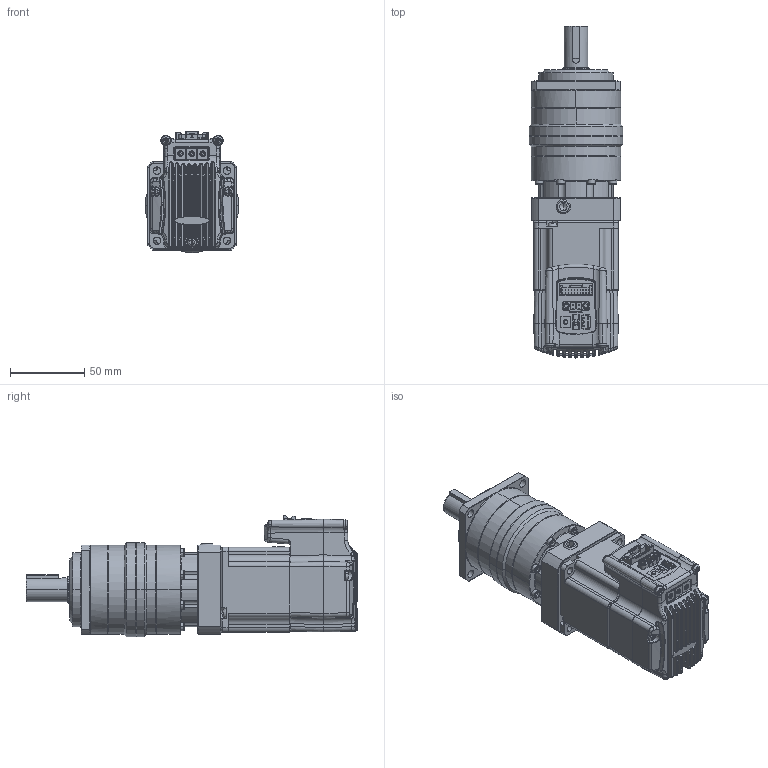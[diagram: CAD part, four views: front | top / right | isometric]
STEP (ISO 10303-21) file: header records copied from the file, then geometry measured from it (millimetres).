
FILE_DESCRIPTION (( 'STEP AP203' ), '1' );
FILE_NAME ('130416 Ezi-SERVO PG-BT-56S-PN15~50.STEP', '2013-04-17T01:21:59', ( '' ), ( '' ), 'SwSTEP 2.0', 'SolidWorks 2012', '' );
FILE_SCHEMA (( 'CONFIG_CONTROL_DESIGN' ));
Products named in the file (40): 130416 Ezi-SERVO PG-BT-56S-PN15~50; ST56 2ST; 38_5; 37_9; 36_9; 35_9; 34_9; 33_9; 32_9; 31_9; 30_9; 29_9; 28_9; 27_9; 26_9; 25_9; 24_9; 23_9; 22_9; 21_9; 20_9; 19_9; 18_9; 17_9; 16_9; 15_9; 14_9; 13_9; 12_9; 11_9; 10_9; 9_9; 8_9; 7_9; 6_9; 5_9; 4_9; 3_9; 2_9; 1_9
Assembly tree (39 placements, depth 2):
  130416 Ezi-SERVO PG-BT-56S-PN15~50
    1_9
    2_9
    3_9
    4_9
    5_9
    6_9
    7_9
    8_9
    9_9
    10_9
    11_9
    12_9
    13_9
    14_9
    15_9
    16_9
    17_9
    18_9
    19_9
    20_9
    21_9
    22_9
    23_9
    24_9
    25_9
    26_9
    27_9
    28_9
    29_9
    30_9
    31_9
    32_9
    33_9
    34_9
    35_9
    36_9
    37_9
    38_5
    ST56 2ST
Bounding box: 63 x 223.1 x 81.43 mm (x, y, z)
Volume: 480867.7 mm3; surface area: 124769 mm2
Topology: 37 solids, 39 shells, 3667 faces, 9212 edges, 5641 vertices
Faces by surface type: plane 1598, cylinder 1142, bspline 669, cone 204, torus 54
Entity records: 171412 total; most frequent: CARTESIAN_POINT 88158, ORIENTED_EDGE 18150, DIRECTION 13415, EDGE_CURVE 9097, VERTEX_POINT 5641, AXIS2_PLACEMENT_3D 4508, LINE 4399, VECTOR 4399
